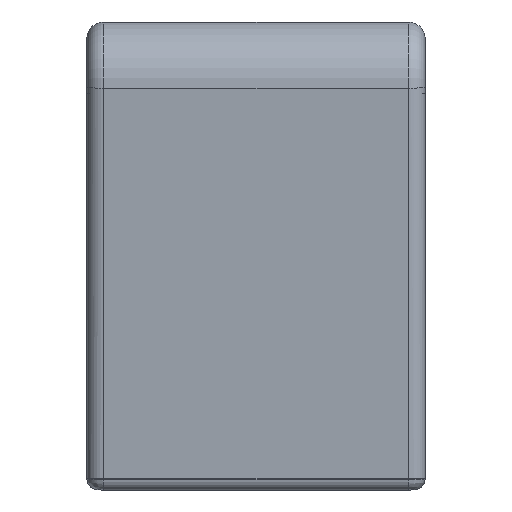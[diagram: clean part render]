
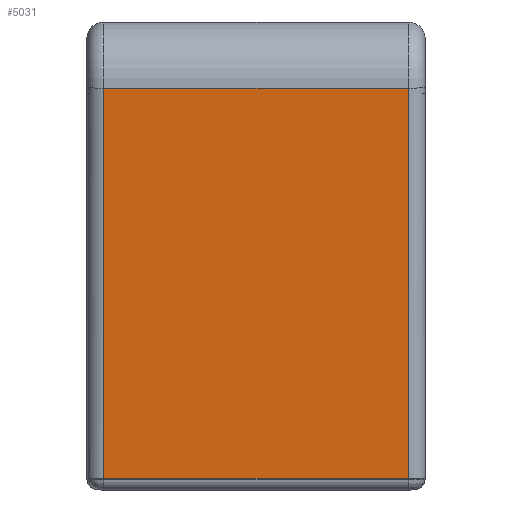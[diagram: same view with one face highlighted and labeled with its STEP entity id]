
A CAD part, left-side view. The second image highlights one B-rep face of the part: STEP entity #5031.
In plain terms, the highlighted planar face has unit normal (-0.998, 0, -0.067).
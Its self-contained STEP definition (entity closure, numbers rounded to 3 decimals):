
#239 = EDGE_CURVE ( 'NONE', #3771, #3770, #795, .T. ) ;
#240 = EDGE_CURVE ( 'NONE', #3770, #3769, #793, .T. ) ;
#241 = EDGE_CURVE ( 'NONE', #3769, #3768, #791, .T. ) ;
#242 = EDGE_CURVE ( 'NONE', #3771, #3768, #788, .T. ) ;
#324 = ORIENTED_EDGE ( 'NONE', *, *, #239, .T. ) ;
#325 = ORIENTED_EDGE ( 'NONE', *, *, #240, .T. ) ;
#326 = ORIENTED_EDGE ( 'NONE', *, *, #241, .T. ) ;
#327 = ORIENTED_EDGE ( 'NONE', *, *, #242, .F. ) ;
#524 = EDGE_LOOP ( 'NONE', ( #324, #325, #326, #327 ) ) ;
#787 = VECTOR ( 'NONE', #4379, 1000. ) ;
#788 = LINE ( 'NONE', #4378, #787 ) ;
#790 = VECTOR ( 'NONE', #4377, 1000. ) ;
#791 = LINE ( 'NONE', #4376, #790 ) ;
#792 = VECTOR ( 'NONE', #4375, 1000. ) ;
#793 = LINE ( 'NONE', #4374, #792 ) ;
#794 = VECTOR ( 'NONE', #4373, 1000. ) ;
#795 = LINE ( 'NONE', #4372, #794 ) ;
#1584 = FACE_OUTER_BOUND ( 'NONE', #524, .T. ) ;
#2113 = PLANE ( 'NONE',  #3659 ) ;
#2114 = CARTESIAN_POINT ( 'NONE',  ( -318., 15., -7. ) ) ;
#2115 = DIRECTION ( 'NONE',  ( -0.998, 0., -0.067 ) ) ;
#2116 = DIRECTION ( 'NONE',  ( -0.067, 0., 0.998 ) ) ;
#3659 = AXIS2_PLACEMENT_3D ( 'NONE', #2114, #2115, #2116 ) ;
#3768 = VERTEX_POINT ( 'NONE', #4807 ) ;
#3769 = VERTEX_POINT ( 'NONE', #4808 ) ;
#3770 = VERTEX_POINT ( 'NONE', #4809 ) ;
#3771 = VERTEX_POINT ( 'NONE', #4810 ) ;
#4372 = CARTESIAN_POINT ( 'NONE',  ( -318., 13.5, -7. ) ) ;
#4373 = DIRECTION ( 'NONE',  ( 0.067, 0., -0.998 ) ) ;
#4374 = CARTESIAN_POINT ( 'NONE',  ( -318.063, 15., -6.067 ) ) ;
#4375 = DIRECTION ( 'NONE',  ( 0., -1., 0. ) ) ;
#4376 = CARTESIAN_POINT ( 'NONE',  ( -320.388, -13.5, 28.632 ) ) ;
#4377 = DIRECTION ( 'NONE',  ( -0.067, 0., 0.998 ) ) ;
#4378 = CARTESIAN_POINT ( 'NONE',  ( -320.388, 15., 28.632 ) ) ;
#4379 = DIRECTION ( 'NONE',  ( 0., -1., 0. ) ) ;
#4807 = CARTESIAN_POINT ( 'NONE',  ( -320.388, -13.5, 28.632 ) ) ;
#4808 = CARTESIAN_POINT ( 'NONE',  ( -318.063, -13.5, -6.067 ) ) ;
#4809 = CARTESIAN_POINT ( 'NONE',  ( -318.063, 13.5, -6.067 ) ) ;
#4810 = CARTESIAN_POINT ( 'NONE',  ( -320.388, 13.5, 28.632 ) ) ;
#5031 = ADVANCED_FACE ( 'NONE', ( #1584 ), #2113, .T. ) ;
